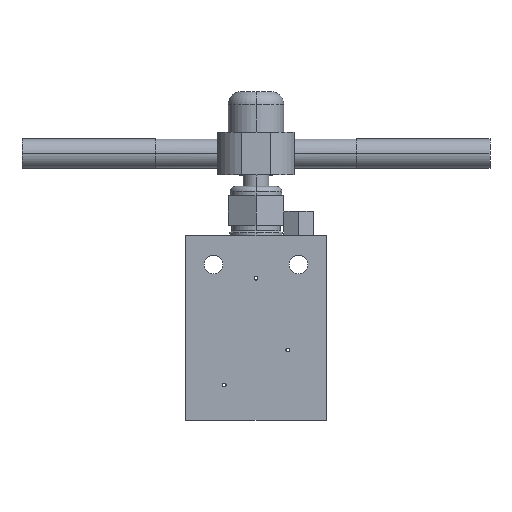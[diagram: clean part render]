
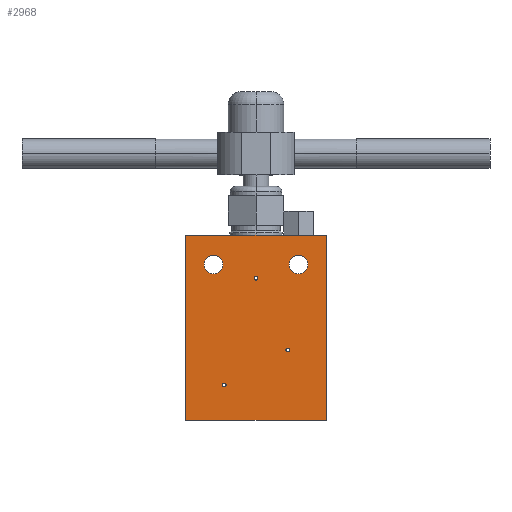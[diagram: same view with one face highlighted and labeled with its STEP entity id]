
A CAD part, top view. The second image highlights one B-rep face of the part: STEP entity #2968.
In plain terms, the highlighted planar face has unit normal (0, 0, 1).
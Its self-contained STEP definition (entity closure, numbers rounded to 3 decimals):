
#51 = DIRECTION ( 'NONE',  ( -1., 0., 0. ) ) ;
#58 = CARTESIAN_POINT ( 'NONE',  ( -23., 34.2, 17.5 ) ) ;
#79 = EDGE_LOOP ( 'NONE', ( #450, #627 ) ) ;
#84 = AXIS2_PLACEMENT_3D ( 'NONE', #3041, #966, #713 ) ;
#86 = EDGE_CURVE ( 'NONE', #2918, #1495, #1246, .T. ) ;
#109 = VECTOR ( 'NONE', #2447, 1000. ) ;
#160 = CIRCLE ( 'NONE', #321, 1. ) ;
#167 = PLANE ( 'NONE',  #645 ) ;
#171 = VERTEX_POINT ( 'NONE', #2929 ) ;
#186 = EDGE_CURVE ( 'NONE', #1319, #545, #1465, .T. ) ;
#209 = VECTOR ( 'NONE', #2936, 1000. ) ;
#267 = ORIENTED_EDGE ( 'NONE', *, *, #2946, .F. ) ;
#278 = CARTESIAN_POINT ( 'NONE',  ( 16.1, -12., 17.5 ) ) ;
#300 = DIRECTION ( 'NONE',  ( 0., 0., 1. ) ) ;
#317 = CARTESIAN_POINT ( 'NONE',  ( -38., -50., 17.5 ) ) ;
#321 = AXIS2_PLACEMENT_3D ( 'NONE', #1411, #2138, #1614 ) ;
#390 = DIRECTION ( 'NONE',  ( 0., 0., -1. ) ) ;
#392 = CIRCLE ( 'NONE', #84, 5. ) ;
#450 = ORIENTED_EDGE ( 'NONE', *, *, #3321, .F. ) ;
#454 = CIRCLE ( 'NONE', #792, 5. ) ;
#495 = DIRECTION ( 'NONE',  ( 0., 0., 1. ) ) ;
#545 = VERTEX_POINT ( 'NONE', #278 ) ;
#571 = LINE ( 'NONE', #317, #1921 ) ;
#583 = DIRECTION ( 'NONE',  ( 1., 0., 0. ) ) ;
#584 = CARTESIAN_POINT ( 'NONE',  ( 28., 34.2, 17.5 ) ) ;
#589 = ORIENTED_EDGE ( 'NONE', *, *, #1484, .F. ) ;
#627 = ORIENTED_EDGE ( 'NONE', *, *, #1926, .F. ) ;
#645 = AXIS2_PLACEMENT_3D ( 'NONE', #1181, #3255, #1747 ) ;
#652 = AXIS2_PLACEMENT_3D ( 'NONE', #3007, #2777, #3266 ) ;
#690 = FACE_BOUND ( 'NONE', #79, .T. ) ;
#708 = DIRECTION ( 'NONE',  ( 1., 0., 0. ) ) ;
#713 = DIRECTION ( 'NONE',  ( -1., 0., 0. ) ) ;
#714 = VECTOR ( 'NONE', #51, 1000. ) ;
#792 = AXIS2_PLACEMENT_3D ( 'NONE', #58, #1078, #2648 ) ;
#850 = CARTESIAN_POINT ( 'NONE',  ( -38., 50., 17.5 ) ) ;
#879 = VERTEX_POINT ( 'NONE', #1136 ) ;
#880 = EDGE_CURVE ( 'NONE', #3311, #2835, #3211, .T. ) ;
#919 = AXIS2_PLACEMENT_3D ( 'NONE', #1920, #300, #583 ) ;
#940 = DIRECTION ( 'NONE',  ( 0., 0., 1. ) ) ;
#948 = FACE_BOUND ( 'NONE', #1182, .T. ) ;
#961 = CARTESIAN_POINT ( 'NONE',  ( 1., 26.7, 17.5 ) ) ;
#966 = DIRECTION ( 'NONE',  ( 0., 0., -1. ) ) ;
#988 = LINE ( 'NONE', #2628, #714 ) ;
#1024 = CIRCLE ( 'NONE', #1075, 1. ) ;
#1028 = DIRECTION ( 'NONE',  ( 1., 0., 0. ) ) ;
#1075 = AXIS2_PLACEMENT_3D ( 'NONE', #1164, #1970, #708 ) ;
#1078 = DIRECTION ( 'NONE',  ( 0., 0., 1. ) ) ;
#1107 = DIRECTION ( 'NONE',  ( -1., 0., 0. ) ) ;
#1134 = DIRECTION ( 'NONE',  ( 0., 0., 1. ) ) ;
#1136 = CARTESIAN_POINT ( 'NONE',  ( 18., 34.2, 17.5 ) ) ;
#1152 = CIRCLE ( 'NONE', #2512, 5. ) ;
#1157 = CARTESIAN_POINT ( 'NONE',  ( 23., 34.2, 17.5 ) ) ;
#1164 = CARTESIAN_POINT ( 'NONE',  ( 0., 26.7, 17.5 ) ) ;
#1168 = EDGE_CURVE ( 'NONE', #2972, #2739, #1186, .T. ) ;
#1181 = CARTESIAN_POINT ( 'NONE',  ( 0., 0., 17.5 ) ) ;
#1182 = EDGE_LOOP ( 'NONE', ( #2803, #267 ) ) ;
#1186 = CIRCLE ( 'NONE', #2173, 1. ) ;
#1208 = DIRECTION ( 'NONE',  ( 1., 0., 0. ) ) ;
#1246 = CIRCLE ( 'NONE', #2442, 1. ) ;
#1256 = EDGE_LOOP ( 'NONE', ( #3103, #2908, #2948, #1829 ) ) ;
#1305 = EDGE_CURVE ( 'NONE', #1843, #879, #392, .T. ) ;
#1319 = VERTEX_POINT ( 'NONE', #2776 ) ;
#1411 = CARTESIAN_POINT ( 'NONE',  ( 17.1, -12., 17.5 ) ) ;
#1465 = CIRCLE ( 'NONE', #919, 1. ) ;
#1484 = EDGE_CURVE ( 'NONE', #2739, #2972, #1705, .T. ) ;
#1494 = ORIENTED_EDGE ( 'NONE', *, *, #186, .F. ) ;
#1495 = VERTEX_POINT ( 'NONE', #3231 ) ;
#1500 = ORIENTED_EDGE ( 'NONE', *, *, #3223, .T. ) ;
#1527 = CARTESIAN_POINT ( 'NONE',  ( -18.1, -31., 17.5 ) ) ;
#1614 = DIRECTION ( 'NONE',  ( 1., 0., 0. ) ) ;
#1686 = CARTESIAN_POINT ( 'NONE',  ( 38., 50., 17.5 ) ) ;
#1705 = CIRCLE ( 'NONE', #2137, 1. ) ;
#1747 = DIRECTION ( 'NONE',  ( 1., 0., 0. ) ) ;
#1829 = ORIENTED_EDGE ( 'NONE', *, *, #1929, .T. ) ;
#1843 = VERTEX_POINT ( 'NONE', #584 ) ;
#1856 = EDGE_LOOP ( 'NONE', ( #2577, #589 ) ) ;
#1917 = CARTESIAN_POINT ( 'NONE',  ( -17.1, -31., 17.5 ) ) ;
#1920 = CARTESIAN_POINT ( 'NONE',  ( 17.1, -12., 17.5 ) ) ;
#1921 = VECTOR ( 'NONE', #2382, 1000. ) ;
#1926 = EDGE_CURVE ( 'NONE', #2045, #171, #454, .T. ) ;
#1927 = ORIENTED_EDGE ( 'NONE', *, *, #1305, .T. ) ;
#1929 = EDGE_CURVE ( 'NONE', #2957, #3311, #571, .T. ) ;
#1937 = CARTESIAN_POINT ( 'NONE',  ( -38., -50., 17.5 ) ) ;
#1970 = DIRECTION ( 'NONE',  ( 0., 0., 1. ) ) ;
#2045 = VERTEX_POINT ( 'NONE', #2384 ) ;
#2101 = EDGE_LOOP ( 'NONE', ( #1494, #2190 ) ) ;
#2137 = AXIS2_PLACEMENT_3D ( 'NONE', #1917, #940, #1208 ) ;
#2138 = DIRECTION ( 'NONE',  ( 0., 0., 1. ) ) ;
#2148 = EDGE_CURVE ( 'NONE', #2835, #3085, #988, .T. ) ;
#2173 = AXIS2_PLACEMENT_3D ( 'NONE', #2728, #1134, #2960 ) ;
#2190 = ORIENTED_EDGE ( 'NONE', *, *, #2333, .F. ) ;
#2333 = EDGE_CURVE ( 'NONE', #545, #1319, #160, .T. ) ;
#2379 = CIRCLE ( 'NONE', #652, 5. ) ;
#2382 = DIRECTION ( 'NONE',  ( 1., 0., 0. ) ) ;
#2384 = CARTESIAN_POINT ( 'NONE',  ( -28., 34.2, 17.5 ) ) ;
#2398 = CARTESIAN_POINT ( 'NONE',  ( 38., -50., 17.5 ) ) ;
#2406 = CARTESIAN_POINT ( 'NONE',  ( 38., 50., 17.5 ) ) ;
#2421 = EDGE_CURVE ( 'NONE', #3085, #2957, #2690, .T. ) ;
#2442 = AXIS2_PLACEMENT_3D ( 'NONE', #2811, #495, #1028 ) ;
#2447 = DIRECTION ( 'NONE',  ( 0., 1., 0. ) ) ;
#2512 = AXIS2_PLACEMENT_3D ( 'NONE', #1157, #390, #1107 ) ;
#2577 = ORIENTED_EDGE ( 'NONE', *, *, #1168, .F. ) ;
#2628 = CARTESIAN_POINT ( 'NONE',  ( -38., 50., 17.5 ) ) ;
#2648 = DIRECTION ( 'NONE',  ( 1., 0., 0. ) ) ;
#2690 = LINE ( 'NONE', #850, #209 ) ;
#2728 = CARTESIAN_POINT ( 'NONE',  ( -17.1, -31., 17.5 ) ) ;
#2739 = VERTEX_POINT ( 'NONE', #1527 ) ;
#2776 = CARTESIAN_POINT ( 'NONE',  ( 18.1, -12., 17.5 ) ) ;
#2777 = DIRECTION ( 'NONE',  ( 0., 0., 1. ) ) ;
#2783 = CARTESIAN_POINT ( 'NONE',  ( -16.1, -31., 17.5 ) ) ;
#2803 = ORIENTED_EDGE ( 'NONE', *, *, #86, .F. ) ;
#2811 = CARTESIAN_POINT ( 'NONE',  ( 0., 26.7, 17.5 ) ) ;
#2835 = VERTEX_POINT ( 'NONE', #2406 ) ;
#2908 = ORIENTED_EDGE ( 'NONE', *, *, #2148, .T. ) ;
#2918 = VERTEX_POINT ( 'NONE', #961 ) ;
#2929 = CARTESIAN_POINT ( 'NONE',  ( -18., 34.2, 17.5 ) ) ;
#2936 = DIRECTION ( 'NONE',  ( 0., -1., 0. ) ) ;
#2946 = EDGE_CURVE ( 'NONE', #1495, #2918, #1024, .T. ) ;
#2948 = ORIENTED_EDGE ( 'NONE', *, *, #2421, .T. ) ;
#2957 = VERTEX_POINT ( 'NONE', #1937 ) ;
#2960 = DIRECTION ( 'NONE',  ( 1., 0., 0. ) ) ;
#2968 = ADVANCED_FACE ( 'NONE', ( #2999, #3273, #948, #3287, #690, #2969 ), #167, .T. ) ;
#2969 = FACE_OUTER_BOUND ( 'NONE', #1256, .T. ) ;
#2972 = VERTEX_POINT ( 'NONE', #2783 ) ;
#2999 = FACE_BOUND ( 'NONE', #2101, .T. ) ;
#3007 = CARTESIAN_POINT ( 'NONE',  ( -23., 34.2, 17.5 ) ) ;
#3041 = CARTESIAN_POINT ( 'NONE',  ( 23., 34.2, 17.5 ) ) ;
#3085 = VERTEX_POINT ( 'NONE', #3130 ) ;
#3103 = ORIENTED_EDGE ( 'NONE', *, *, #880, .T. ) ;
#3105 = EDGE_LOOP ( 'NONE', ( #1927, #1500 ) ) ;
#3130 = CARTESIAN_POINT ( 'NONE',  ( -38., 50., 17.5 ) ) ;
#3211 = LINE ( 'NONE', #1686, #109 ) ;
#3223 = EDGE_CURVE ( 'NONE', #879, #1843, #1152, .T. ) ;
#3231 = CARTESIAN_POINT ( 'NONE',  ( -1., 26.7, 17.5 ) ) ;
#3255 = DIRECTION ( 'NONE',  ( 0., 0., 1. ) ) ;
#3266 = DIRECTION ( 'NONE',  ( 1., 0., 0. ) ) ;
#3273 = FACE_BOUND ( 'NONE', #1856, .T. ) ;
#3287 = FACE_BOUND ( 'NONE', #3105, .T. ) ;
#3311 = VERTEX_POINT ( 'NONE', #2398 ) ;
#3321 = EDGE_CURVE ( 'NONE', #171, #2045, #2379, .T. ) ;
